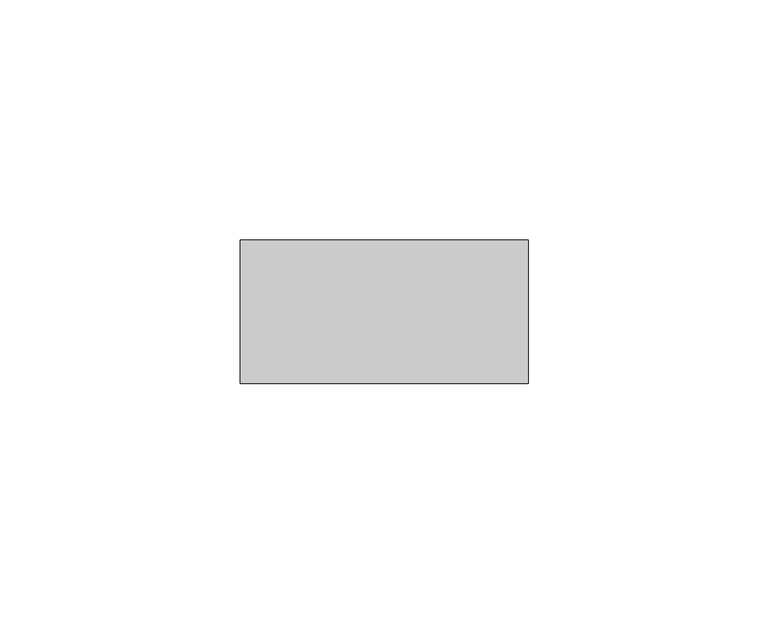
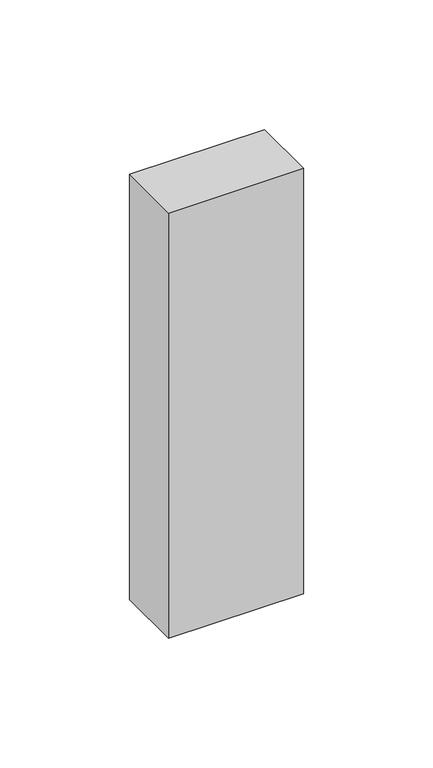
"""IFC4 building model written with IfcOpenShell, lengths in millimetres: member geometry, Прямоугольный импост : Квадрат 30 мм."""

from ifc_helpers import new_model, si_unit, frame, origin, place, context, project, spatial, polyline, outline, extrude, source, transform, mapped, element, save


def member_0e5000be(model_context):
    return source(origin(), model_context, "Body", "SweptSolid", [
        extrude(outline(polyline([(30.0, 15.0), (30.0, -15.0), (-30.0, -15.0), (-30.0, 15.0), (30.0, 15.0)])), frame((0.0, 0.0, -200.0), z_axis=(0.0, 0.0, 1.0), x_axis=(1.0, 0.0, 0.0)), (0.0, 0.0, 1.0), 200.0),
    ])


if __name__ == "__main__":
    model = new_model("IFC4")
    model_context = context("Model", 3, world=origin())
    ifc_project = project(units=[si_unit("LENGTHUNIT", "METRE", prefix="MILLI")], contexts=[model_context])
    site = spatial("IfcSite", under=ifc_project)
    building = spatial("IfcBuilding", under=site)
    placement = place(None, origin())
    member_shape = member_0e5000be(model_context)
    element("IfcMember", 1, ObjectType="Прямоугольный импост : Квадрат 30 мм", at=placement, inside=building, context=model_context, shape_type="MappedRepresentation", body=[
        mapped(member_shape, transform((0.0, 0.0, 0.0), x_axis=(1.0, 0.0, 0.0), y_axis=(0.0, 1.0, 0.0), z_axis=(0.0, 0.0, 1.0))),
    ])
    save(model, "model.ifc")
